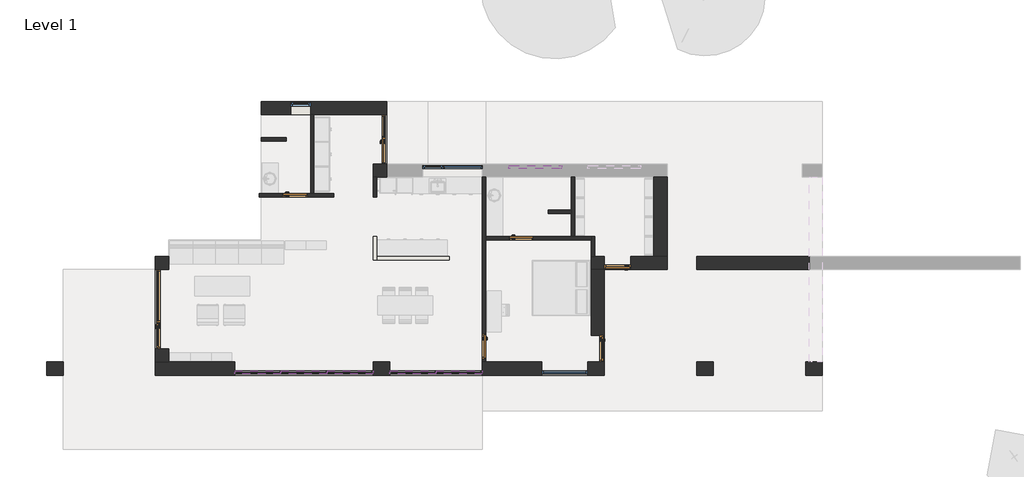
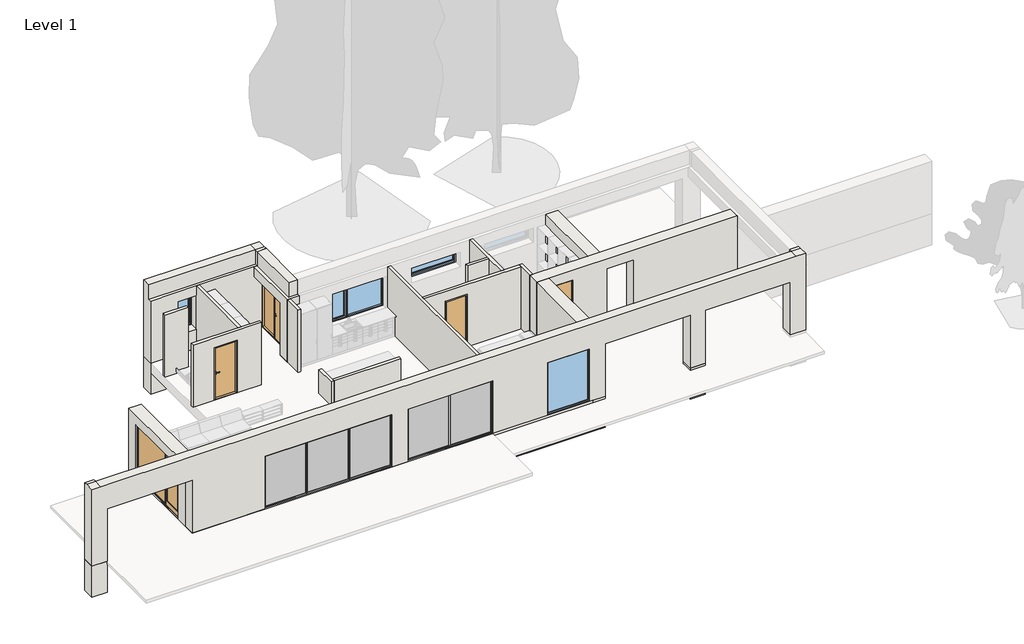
# One storey, part 1 of 2: 27 walls, 17 members, 7 doors, 5 plates, 4 windows.
"""IFC4 building model written with IfcOpenShell, lengths in millimetres."""

from ifc_helpers import new_model, si_unit, frame, origin, origin_with_axes, place, context, project, spatial, polyline, outline, extrude, faceted_brep, transform, mapped, element, save
from components import door_1800x2200_mm_7a9b0269, ext_door_window_assembly_glass_2880x2200_mm_8e24472b, ext_single_flush_out_glass_960x2200_mm_6190eac3, ext_single_flush1_960x2200_mm_7c25dc53, int_single_flush1_900x2200_mm_083ae047, rectangular_mullion_exterior_50x115mm_b31c03e9, rectangular_mullion_exterior_50x115mm_eaa21abb, rectangular_mullion_exterior_50x115mm_593a1a29, system_panel_exterior_glass_22mm_baca3ab9, system_panel_exterior_glass_22mm_266c4f93, fixed_1680x2200_mm_e3bfc0e5, single_light_top_hinged_1920x600_dd11e4f9, single_light_720x1400_mm_50d61ae6, window_assembly_individual_2160x1400_mm_9c06a6f2

model = new_model("IFC4")

# Units and contexts
model_context = context("Model", 3, world=origin())
ifc_project = project(units=[si_unit("LENGTHUNIT", "METRE", prefix="MILLI")], contexts=[model_context])

# Site, building, storey
site = spatial("IfcSite", under=ifc_project)
building = spatial("IfcBuilding", under=site)
storey = spatial("IfcBuildingStorey", under=building, Name="Level 1", Elevation=0.0)

# Doors
placement = place(None, origin())
door_1800x2200_mm_shape = door_1800x2200_mm_7a9b0269(model_context)
element("IfcDoor", 1, ObjectType="Ext. Door inw. Window Assembly : 1800x2200 mm", at=placement, inside=storey, context=model_context, shape_type="MappedRepresentation", body=[
    mapped(door_1800x2200_mm_shape, transform((12120.0, 8580.0, 0.0), x_axis=(0.0, -1.0, 0.0), y_axis=(1.0, 0.0, 0.0), z_axis=(0.0, 0.0, 1.0))),
])
ext_door_window_assembly_glass_2880x2200_mm_shape = ext_door_window_assembly_glass_2880x2200_mm_8e24472b(model_context)
element("IfcDoor", 2, ObjectType="Ext. Door Window Assembly - Glass : 2880x2200 mm", at=placement, inside=storey, context=model_context, shape_type="MappedRepresentation", body=[
    mapped(ext_door_window_assembly_glass_2880x2200_mm_shape, transform((4200.0, 2400.0, 0.0), x_axis=(0.0, -1.0, 0.0), y_axis=(1.0, 0.0, 0.0), z_axis=(0.0, 0.0, 1.0))),
])
ext_single_flush_out_glass_960x2200_mm_shape = ext_single_flush_out_glass_960x2200_mm_6190eac3(model_context)
element("IfcDoor", 3, ObjectType="Ext. Single-Flush out - Glass : 960x2200 mm", at=placement, inside=storey, context=model_context, shape_type="MappedRepresentation", body=[
    mapped(ext_single_flush_out_glass_960x2200_mm_shape, transform((20040.0, 960.0, 0.0), x_axis=(0.0, -1.0, 0.0), y_axis=(1.0, 0.0, 0.0), z_axis=(0.0, 0.0, 1.0))),
])
ext_single_flush1_960x2200_mm_shape = ext_single_flush1_960x2200_mm_7c25dc53(model_context)
element("IfcDoor", 4, ObjectType="Ext. Single-Flush1 : 960x2200 mm", at=placement, inside=storey, context=model_context, shape_type="MappedRepresentation", body=[
    mapped(ext_single_flush1_960x2200_mm_shape, transform((20760.0, 4080.0, 0.0), x_axis=(-1.0, 0.0, 0.0), y_axis=(0.0, -1.0, 0.0), z_axis=(0.0, 0.0, 1.0))),
])
int_single_flush1_900x2200_mm_shape = int_single_flush1_900x2200_mm_083ae047(model_context)
element("IfcDoor", 5, ObjectType="Int. Single-Flush1 : 900x2200 mm", at=placement, inside=storey, context=model_context, shape_type="MappedRepresentation", body=[
    mapped(int_single_flush1_900x2200_mm_shape, transform((9030.0, 6540.0, 0.0), x_axis=(1.0, 0.0, 0.0), y_axis=(0.0, 1.0, 0.0), z_axis=(0.0, 0.0, 1.0))),
])
element("IfcDoor", 6, ObjectType="Int. Single-Flush1 : 900x2200 mm", at=placement, inside=storey, context=model_context, shape_type="MappedRepresentation", body=[
    mapped(int_single_flush1_900x2200_mm_shape, transform((17250.0, 4980.0, 0.0), x_axis=(1.0, 0.0, 0.0), y_axis=(0.0, 1.0, 0.0), z_axis=(0.0, 0.0, 1.0))),
])
element("IfcDoor", 7, ObjectType="Int. Single-Flush1 : 900x2200 mm", at=placement, inside=storey, context=model_context, shape_type="MappedRepresentation", body=[
    mapped(int_single_flush1_900x2200_mm_shape, transform((15900.0, 1050.0, 0.0), x_axis=(0.0, -1.0, 0.0), y_axis=(1.0, 0.0, 0.0), z_axis=(0.0, 0.0, 1.0))),
])

# Members
rectangular_mullion_exterior_50x115mm_shape = rectangular_mullion_exterior_50x115mm_b31c03e9(model_context)
element("IfcMember", 8, ObjectType="Rectangular Mullion : Exterior - 50x115mm", at=placement, inside=storey, context=model_context, shape_type="MappedRepresentation", body=[
    mapped(rectangular_mullion_exterior_50x115mm_shape, transform((6840.0, 50.0, 2200.0), x_axis=(0.0, 0.0, 1.0), y_axis=(0.0, 1.0, 0.0), z_axis=(-1.0, 0.0, 0.0))),
])
element("IfcMember", 9, ObjectType="Rectangular Mullion : Exterior - 50x115mm", at=placement, inside=storey, context=model_context, shape_type="MappedRepresentation", body=[
    mapped(rectangular_mullion_exterior_50x115mm_shape, transform((12480.0, 50.0, 2200.0), x_axis=(0.0, 0.0, 1.0), y_axis=(0.0, 1.0, 0.0), z_axis=(-1.0, 0.0, 0.0))),
])
element("IfcMember", 10, ObjectType="Rectangular Mullion : Exterior - 50x115mm", at=placement, inside=storey, context=model_context, shape_type="MappedRepresentation", body=[
    mapped(rectangular_mullion_exterior_50x115mm_shape, transform((11880.0, 50.0, 0.0), x_axis=(0.0, 0.0, -1.0), y_axis=(0.0, 1.0, 0.0), z_axis=(1.0, 0.0, 0.0))),
])
element("IfcMember", 11, ObjectType="Rectangular Mullion : Exterior - 50x115mm", at=placement, inside=storey, context=model_context, shape_type="MappedRepresentation", body=[
    mapped(rectangular_mullion_exterior_50x115mm_shape, transform((15840.0, 50.0, 0.0), x_axis=(0.0, 0.0, -1.0), y_axis=(0.0, 1.0, 0.0), z_axis=(1.0, 0.0, 0.0))),
])
rectangular_mullion_exterior_50x115mm_2_shape = rectangular_mullion_exterior_50x115mm_eaa21abb(model_context)
element("IfcMember", 12, ObjectType="Rectangular Mullion : Exterior - 50x115mm", at=placement, inside=storey, context=model_context, shape_type="MappedRepresentation", body=[
    mapped(rectangular_mullion_exterior_50x115mm_2_shape, transform((8520.0, 50.0, 50.0), x_axis=(-1.0, 0.0, 0.0), y_axis=(0.0, 1.0, 0.0), z_axis=(0.0, 0.0, -1.0))),
])
element("IfcMember", 13, ObjectType="Rectangular Mullion : Exterior - 50x115mm", at=placement, inside=storey, context=model_context, shape_type="MappedRepresentation", body=[
    mapped(rectangular_mullion_exterior_50x115mm_2_shape, transform((10200.0, 50.0, 50.0), x_axis=(-1.0, 0.0, 0.0), y_axis=(0.0, 1.0, 0.0), z_axis=(0.0, 0.0, -1.0))),
])
element("IfcMember", 14, ObjectType="Rectangular Mullion : Exterior - 50x115mm", at=placement, inside=storey, context=model_context, shape_type="MappedRepresentation", body=[
    mapped(rectangular_mullion_exterior_50x115mm_2_shape, transform((14160.0, 50.0, 50.0), x_axis=(-1.0, 0.0, 0.0), y_axis=(0.0, 1.0, 0.0), z_axis=(0.0, 0.0, -1.0))),
])
element("IfcMember", 15, ObjectType="Rectangular Mullion : Exterior - 50x115mm", at=placement, inside=storey, context=model_context, shape_type="MappedRepresentation", body=[
    mapped(rectangular_mullion_exterior_50x115mm_shape, transform((8520.0, 50.0, 0.0), x_axis=(0.0, 0.0, -1.0), y_axis=(0.0, 1.0, 0.0), z_axis=(1.0, 0.0, 0.0))),
])
element("IfcMember", 16, ObjectType="Rectangular Mullion : Exterior - 50x115mm", at=placement, inside=storey, context=model_context, shape_type="MappedRepresentation", body=[
    mapped(rectangular_mullion_exterior_50x115mm_shape, transform((14160.0, 50.0, 0.0), x_axis=(0.0, 0.0, -1.0), y_axis=(0.0, 1.0, 0.0), z_axis=(1.0, 0.0, 0.0))),
])
element("IfcMember", 17, ObjectType="Rectangular Mullion : Exterior - 50x115mm", at=placement, inside=storey, context=model_context, shape_type="MappedRepresentation", body=[
    mapped(rectangular_mullion_exterior_50x115mm_shape, transform((10200.0, 50.0, 0.0), x_axis=(0.0, 0.0, -1.0), y_axis=(0.0, 1.0, 0.0), z_axis=(1.0, 0.0, 0.0))),
])
element("IfcMember", 18, ObjectType="Rectangular Mullion : Exterior - 50x115mm", at=placement, inside=storey, context=model_context, shape_type="MappedRepresentation", body=[
    mapped(rectangular_mullion_exterior_50x115mm_shape, transform((8520.0, 50.0, 2200.0), x_axis=(0.0, 0.0, 1.0), y_axis=(0.0, 1.0, 0.0), z_axis=(-1.0, 0.0, 0.0))),
])
element("IfcMember", 19, ObjectType="Rectangular Mullion : Exterior - 50x115mm", at=placement, inside=storey, context=model_context, shape_type="MappedRepresentation", body=[
    mapped(rectangular_mullion_exterior_50x115mm_shape, transform((10200.0, 50.0, 2200.0), x_axis=(0.0, 0.0, 1.0), y_axis=(0.0, 1.0, 0.0), z_axis=(-1.0, 0.0, 0.0))),
])
element("IfcMember", 20, ObjectType="Rectangular Mullion : Exterior - 50x115mm", at=placement, inside=storey, context=model_context, shape_type="MappedRepresentation", body=[
    mapped(rectangular_mullion_exterior_50x115mm_shape, transform((14160.0, 50.0, 2200.0), x_axis=(0.0, 0.0, 1.0), y_axis=(0.0, 1.0, 0.0), z_axis=(-1.0, 0.0, 0.0))),
])
rectangular_mullion_exterior_50x115mm_3_shape = rectangular_mullion_exterior_50x115mm_593a1a29(model_context)
element("IfcMember", 21, ObjectType="Rectangular Mullion : Exterior - 50x115mm", at=placement, inside=storey, context=model_context, shape_type="MappedRepresentation", body=[
    mapped(rectangular_mullion_exterior_50x115mm_3_shape, transform((11880.0, 50.0, 2150.0), x_axis=(1.0, 0.0, 0.0), y_axis=(0.0, 1.0, 0.0), z_axis=(0.0, 0.0, 1.0))),
])
element("IfcMember", 22, ObjectType="Rectangular Mullion : Exterior - 50x115mm", at=placement, inside=storey, context=model_context, shape_type="MappedRepresentation", body=[
    mapped(rectangular_mullion_exterior_50x115mm_3_shape, transform((15840.0, 50.0, 2150.0), x_axis=(1.0, 0.0, 0.0), y_axis=(0.0, 1.0, 0.0), z_axis=(0.0, 0.0, 1.0))),
])
element("IfcMember", 23, ObjectType="Rectangular Mullion : Exterior - 50x115mm", at=placement, inside=storey, context=model_context, shape_type="MappedRepresentation", body=[
    mapped(rectangular_mullion_exterior_50x115mm_3_shape, transform((6840.0, 50.0, 50.0), x_axis=(-1.0, 0.0, 0.0), y_axis=(0.0, 1.0, 0.0), z_axis=(0.0, 0.0, -1.0))),
])
element("IfcMember", 24, ObjectType="Rectangular Mullion : Exterior - 50x115mm", at=placement, inside=storey, context=model_context, shape_type="MappedRepresentation", body=[
    mapped(rectangular_mullion_exterior_50x115mm_3_shape, transform((12480.0, 50.0, 50.0), x_axis=(-1.0, 0.0, 0.0), y_axis=(0.0, 1.0, 0.0), z_axis=(0.0, 0.0, -1.0))),
])

# Plates
system_panel_exterior_glass_22mm_shape = system_panel_exterior_glass_22mm_baca3ab9(model_context)
element("IfcPlate", 25, ObjectType="System Panel : Exterior - Glass 22mm", at=placement, inside=storey, context=model_context, shape_type="MappedRepresentation", body=[
    mapped(system_panel_exterior_glass_22mm_shape, transform((11027.5, 50.0, 50.0), x_axis=(-1.0, 0.0, 0.0), y_axis=(0.0, -1.0, 0.0), z_axis=(0.0, 0.0, 1.0))),
])
element("IfcPlate", 26, ObjectType="System Panel : Exterior - Glass 22mm", at=placement, inside=storey, context=model_context, shape_type="MappedRepresentation", body=[
    mapped(system_panel_exterior_glass_22mm_shape, transform((7692.5, 50.0, 50.0), x_axis=(-1.0, 0.0, 0.0), y_axis=(0.0, -1.0, 0.0), z_axis=(0.0, 0.0, 1.0))),
])
element("IfcPlate", 27, ObjectType="System Panel : Exterior - Glass 22mm", at=placement, inside=storey, context=model_context, shape_type="MappedRepresentation", body=[
    mapped(system_panel_exterior_glass_22mm_shape, transform((14987.5, 50.0, 50.0), x_axis=(-1.0, 0.0, 0.0), y_axis=(0.0, -1.0, 0.0), z_axis=(0.0, 0.0, 1.0))),
])
element("IfcPlate", 28, ObjectType="System Panel : Exterior - Glass 22mm", at=placement, inside=storey, context=model_context, shape_type="MappedRepresentation", body=[
    mapped(system_panel_exterior_glass_22mm_shape, transform((13332.5, 50.0, 50.0), x_axis=(-1.0, 0.0, 0.0), y_axis=(0.0, -1.0, 0.0), z_axis=(0.0, 0.0, 1.0))),
])
system_panel_exterior_glass_22mm_2_shape = system_panel_exterior_glass_22mm_266c4f93(model_context)
element("IfcPlate", 29, ObjectType="System Panel : Exterior - Glass 22mm", at=placement, inside=storey, context=model_context, shape_type="MappedRepresentation", body=[
    mapped(system_panel_exterior_glass_22mm_2_shape, transform((9360.0, 50.0, 50.0), x_axis=(-1.0, 0.0, 0.0), y_axis=(0.0, -1.0, 0.0), z_axis=(0.0, 0.0, 1.0))),
])

# Walls
element("IfcWall", 30, ObjectType="Generic - 120mm (Interior)", at=placement, inside=storey, context=model_context, shape_type="Brep", body=[
    faceted_brep([(9720.0, 6600.0, 0.0), (9720.0, 9480.0, 0.0), (9720.0, 9480.0, 2600.0), (9720.0, 6600.0, 2600.0), (9600.0, 6600.0, 0.0), (9600.0, 6600.0, 2600.0), (9600.0, 9480.0, 2600.0), (9600.0, 9480.0, 2200.0), (9600.0, 9480.0, 800.0), (9600.0, 9480.0, 0.0)], [[[0, 1, 2, 3]], [[4, 5, 6, 7, 8, 9]], [[1, 0, 4, 9]], [[0, 3, 5, 4]], [[2, 1, 9, 8, 7, 6]], [[3, 2, 6, 5]]]),
])
element("IfcWall", 31, ObjectType="Generic - 120mm (Interior)", at=placement, inside=storey, context=model_context, shape_type="Brep", body=[
    faceted_brep([(15960.0, 7200.0, 0.0), (15960.0, 7200.0, 2600.0), (15960.0, 5040.0, 2600.0), (15960.0, 4920.0, 2600.0), (15960.0, 480.0, 2600.0), (15960.0, 480.0, 0.0), (15960.0, 600.0, 0.0), (15960.0, 600.0, 2200.0), (15960.0, 1500.0, 2200.0), (15960.0, 1500.0, 0.0), (15960.0, 4920.0, 0.0), (15960.0, 5040.0, 0.0), (15840.0, 7200.0, 2600.0), (15840.0, 7200.0, 2200.0), (15840.0, 7200.0, 800.0), (15840.0, 7200.0, 0.0), (15840.0, 1500.0, 0.0), (15840.0, 1500.0, 2200.0), (15840.0, 600.0, 2200.0), (15840.0, 600.0, 0.0), (15840.0, 480.0, 0.0), (15840.0, 480.0, 2200.0), (15840.0, 480.0, 2600.0)], [[[0, 1, 2, 3, 4, 5, 6, 7, 8, 9, 10, 11]], [[12, 13, 14, 15, 16, 17, 18, 19, 20, 21, 22]], [[5, 20, 19, 6]], [[15, 0, 11, 10, 9, 16]], [[1, 0, 15, 14, 13, 12]], [[5, 4, 22, 21, 20]], [[18, 7, 6, 19]], [[7, 18, 17, 8]], [[8, 17, 16, 9]], [[4, 3, 2, 1, 12, 22]]]),
])
element("IfcWall", 32, ObjectType="Generic - 120mm (Interior)", at=placement, inside=storey, context=model_context, shape_type="Brep", body=[
    faceted_brep([(19920.0, 4320.0, 0.0), (19920.0, 5040.0, 0.0), (19920.0, 5040.0, 2600.0), (19920.0, 4320.0, 2600.0), (19800.0, 4320.0, 0.0), (19800.0, 4320.0, 2600.0), (19800.0, 4920.0, 2600.0), (19800.0, 5040.0, 2600.0), (19800.0, 5040.0, 0.0), (19800.0, 4920.0, 0.0)], [[[0, 1, 2, 3]], [[4, 5, 6, 7, 8, 9]], [[1, 0, 4, 9, 8]], [[2, 1, 8, 7]], [[0, 3, 5, 4]], [[3, 2, 7, 6, 5]]]),
])
element("IfcWall", 33, ObjectType="Generic - 120mm (Interior)", at=placement, inside=storey, context=model_context, shape_type="Brep", body=[
    faceted_brep([(19800.0, 5040.0, 2600.0), (19800.0, 5040.0, 0.0), (19200.0, 5040.0, 0.0), (19080.0, 5040.0, 0.0), (17700.0, 5040.0, 0.0), (17700.0, 5040.0, 2200.0), (16800.0, 5040.0, 2200.0), (16800.0, 5040.0, 0.0), (15960.0, 5040.0, 0.0), (15960.0, 5040.0, 2600.0), (19080.0, 5040.0, 2600.0), (19200.0, 5040.0, 2600.0), (19800.0, 4920.0, 0.0), (19800.0, 4920.0, 2600.0), (15960.0, 4920.0, 2600.0), (15960.0, 4920.0, 0.0), (16800.0, 4920.0, 0.0), (16800.0, 4920.0, 2200.0), (17700.0, 4920.0, 2200.0), (17700.0, 4920.0, 0.0)], [[[0, 1, 2, 3, 4, 5, 6, 7, 8, 9, 10, 11]], [[12, 13, 14, 15, 16, 17, 18, 19]], [[1, 12, 19, 4, 3, 2]], [[15, 8, 7, 16]], [[1, 0, 13, 12]], [[9, 8, 15, 14]], [[18, 5, 4, 19]], [[5, 18, 17, 6]], [[6, 17, 16, 7]], [[0, 11, 10, 9, 14, 13]]]),
])
element("IfcWall", 34, ObjectType="Generic - 120mm (Interior)", at=placement, inside=storey, context=model_context, shape_type="Brep", body=[
    faceted_brep([(19200.0, 5040.0, 0.0), (19200.0, 7200.0, 0.0), (19200.0, 7200.0, 2600.0), (19200.0, 5040.0, 2600.0), (19080.0, 5040.0, 0.0), (19080.0, 5040.0, 2600.0), (19080.0, 5880.0, 2600.0), (19080.0, 6000.0, 2600.0), (19080.0, 7200.0, 2600.0), (19080.0, 7200.0, 0.0), (19080.0, 6000.0, 0.0), (19080.0, 5880.0, 0.0)], [[[0, 1, 2, 3]], [[4, 5, 6, 7, 8, 9, 10, 11]], [[1, 0, 4, 11, 10, 9]], [[0, 3, 5, 4]], [[2, 1, 9, 8]], [[3, 2, 8, 7, 6, 5]]]),
])
element("IfcWall", 35, ObjectType="Generic - 120mm (Interior)", at=placement, inside=storey, context=model_context, shape_type="SweptSolid", body=[
    extrude(outline(polyline([(18240.0, 6000.0), (19080.0, 6000.0), (19080.0, 5880.0), (18240.0, 5880.0), (18240.0, 6000.0)])), origin_with_axes(), (0.0, 0.0, 1.0), 2600.0),
])
element("IfcWall", 36, ObjectType="Generic - 120mm (Interior)", at=placement, inside=storey, context=model_context, shape_type="SweptSolid", body=[
    extrude(outline(polyline([(8720.0, 8520.0), (7800.0, 8520.0), (7800.0, 8640.0), (8720.0, 8640.0), (8720.0, 8520.0)])), origin_with_axes(), (0.0, 0.0, 1.0), 2600.0),
])
element("IfcWall", 37, ObjectType="Generic - 120mm (Interior)", at=placement, inside=storey, context=model_context, shape_type="Brep", body=[
    faceted_brep([(11880.0, 5040.0, 0.0), (11880.0, 4200.0, 0.0), (11880.0, 4200.0, 1000.0), (11880.0, 5040.0, 1000.0), (12000.0, 5040.0, 0.0), (12000.0, 5040.0, 1000.0), (12000.0, 4320.0, 1000.0), (12000.0, 4200.0, 1000.0), (12000.0, 4200.0, 0.0), (12000.0, 4320.0, 0.0)], [[[0, 1, 2, 3]], [[4, 5, 6, 7, 8, 9]], [[1, 0, 4, 9, 8]], [[3, 2, 7, 6, 5]], [[0, 3, 5, 4]], [[2, 1, 8, 7]]]),
])
element("IfcWall", 38, ObjectType="Generic - 120mm (Interior)", at=placement, inside=storey, context=model_context, shape_type="SweptSolid", body=[
    extrude(outline(polyline([(14640.0, 4200.0), (12000.0, 4200.0), (12000.0, 4320.0), (14640.0, 4320.0), (14640.0, 4200.0)])), origin_with_axes(), (0.0, 0.0, 1.0), 1000.0),
])
element("IfcWall", 39, ObjectType="Generic - 120mm (Interior)", at=placement, inside=storey, context=model_context, shape_type="SweptSolid", body=[
    extrude(outline(polyline([(11880.0, 6480.0), (11880.0, 7200.0), (12000.0, 7200.0), (12000.0, 6480.0), (11880.0, 6480.0)])), origin_with_axes(), (0.0, 0.0, 1.0), 2600.0),
])
element("IfcWall", 40, ObjectType="Generic - 120mm (Interior)", at=placement, inside=storey, context=model_context, shape_type="Brep", body=[
    faceted_brep([(10440.0, 6480.0, 0.0), (10440.0, 6480.0, 2600.0), (7740.0, 6480.0, 2600.0), (7740.0, 6480.0, 0.0), (7800.0, 6480.0, 0.0), (8580.0, 6480.0, 0.0), (8580.0, 6480.0, 2200.0), (9480.0, 6480.0, 2200.0), (9480.0, 6480.0, 0.0), (10440.0, 6600.0, 2600.0), (10440.0, 6600.0, 0.0), (9720.0, 6600.0, 0.0), (9600.0, 6600.0, 0.0), (9480.0, 6600.0, 0.0), (9480.0, 6600.0, 2200.0), (8580.0, 6600.0, 2200.0), (8580.0, 6600.0, 0.0), (7800.0, 6600.0, 0.0), (7740.0, 6600.0, 0.0), (7740.0, 6600.0, 2600.0), (7800.0, 6600.0, 2600.0), (9600.0, 6600.0, 2600.0), (9720.0, 6600.0, 2600.0)], [[[0, 1, 2, 3, 4, 5, 6, 7, 8]], [[9, 10, 11, 12, 13, 14, 15, 16, 17, 18, 19, 20, 21, 22]], [[10, 0, 8, 13, 12, 11]], [[3, 18, 17, 16, 5, 4]], [[1, 0, 10, 9]], [[3, 2, 19, 18]], [[2, 1, 9, 22, 21, 20, 19]], [[7, 14, 13, 8]], [[14, 7, 6, 15]], [[15, 6, 5, 16]]]),
])
element("IfcWall", 41, ObjectType="Generic - 480mm (Exterior)", at=placement, inside=storey, context=model_context, shape_type="Brep", body=[
    faceted_brep([(11880.0, 7200.0, 0.0), (11880.0, 7200.0, 2600.0), (11880.0, 9480.0, 2600.0), (11880.0, 9480.0, 2200.0), (11880.0, 7680.0, 2200.0), (11880.0, 7680.0, 0.0), (12360.0, 7200.0, 2600.0), (12360.0, 7200.0, 0.0), (12360.0, 7680.0, 0.0), (12360.0, 7680.0, 2200.0), (12360.0, 9480.0, 2200.0), (12360.0, 9480.0, 3200.0), (12360.0, 7680.0, 3200.0), (12360.0, 7320.0, 3200.0), (12360.0, 7320.0, 2600.0), (12000.0, 9480.0, 3200.0), (12000.0, 9480.0, 2600.0), (12000.0, 7200.0, 2600.0), (12000.0, 7320.0, 2600.0), (12000.0, 7320.0, 3200.0)], [[[0, 1, 2, 3, 4, 5]], [[6, 7, 8, 9, 10, 11, 12, 13, 14]], [[7, 0, 5, 8]], [[15, 11, 10, 3, 2, 16]], [[4, 9, 8, 5]], [[9, 4, 3, 10]], [[1, 0, 7, 6, 17]], [[15, 16, 18, 19]], [[11, 15, 19, 13, 12]], [[13, 19, 18, 14]], [[16, 2, 1, 17, 6, 14, 18]]]),
])
element("IfcWall", 42, ObjectType="Generic - 480mm (Exterior)", at=placement, inside=storey, context=model_context, shape_type="Brep", body=[
    faceted_brep([(28200.0, 480.0, 0.0), (27600.0, 480.0, 0.0), (27600.0, 480.0, 2200.0), (24240.0, 480.0, 2200.0), (24240.0, 480.0, 0.0), (23640.0, 480.0, 0.0), (23640.0, 480.0, 2200.0), (20280.0, 480.0, 2200.0), (20280.0, 480.0, 0.0), (19680.0, 480.0, 0.0), (19680.0, 480.0, 2200.0), (18000.0, 480.0, 2200.0), (18000.0, 480.0, 0.0), (15960.0, 480.0, 0.0), (15840.0, 480.0, 0.0), (15840.0, 480.0, 2200.0), (12480.0, 480.0, 2200.0), (12480.0, 480.0, 0.0), (11880.0, 480.0, 0.0), (11880.0, 480.0, 2200.0), (6840.0, 480.0, 2200.0), (6840.0, 480.0, 0.0), (4440.0, 480.0, 0.0), (3960.0, 480.0, 0.0), (3960.0, 480.0, 2200.0), (600.0, 480.0, 2200.0), (600.0, 480.0, 0.0), (0.0, 480.0, 0.0), (0.0, 480.0, 2200.0), (0.0, 480.0, 3200.0), (360.0, 480.0, 3200.0), (360.0, 480.0, 2600.0), (480.0, 480.0, 2600.0), (3960.0, 480.0, 2600.0), (4440.0, 480.0, 2600.0), (15840.0, 480.0, 2600.0), (15960.0, 480.0, 2600.0), (19800.0, 480.0, 2600.0), (20280.0, 480.0, 2600.0), (27720.0, 480.0, 2600.0), (27840.0, 480.0, 2600.0), (27840.0, 480.0, 3200.0), (28200.0, 480.0, 3200.0), (28200.0, 480.0, 2200.0), (27600.0, 0.0, 0.0), (28200.0, 0.0, 0.0), (28200.0, 0.0, 3200.0), (27840.0, 0.0, 3200.0), (360.0, 0.0, 3200.0), (0.0, 0.0, 3200.0), (0.0, 0.0, 0.0), (600.0, 0.0, 0.0), (600.0, 0.0, 2200.0), (3960.0, 0.0, 2200.0), (3960.0, 0.0, 0.0), (6840.0, 0.0, 0.0), (6840.0, 0.0, 2200.0), (11880.0, 0.0, 2200.0), (11880.0, 0.0, 0.0), (12480.0, 0.0, 0.0), (12480.0, 0.0, 2200.0), (15840.0, 0.0, 2200.0), (15840.0, 0.0, 0.0), (18000.0, 0.0, 0.0), (18000.0, 0.0, 2200.0), (19680.0, 0.0, 2200.0), (19680.0, 0.0, 0.0), (20280.0, 0.0, 0.0), (20280.0, 0.0, 2200.0), (23640.0, 0.0, 2200.0), (23640.0, 0.0, 0.0), (24240.0, 0.0, 0.0), (24240.0, 0.0, 2200.0), (27600.0, 0.0, 2200.0), (28200.0, 360.0, 3200.0), (0.0, 360.0, 3200.0), (27840.0, 360.0, 2600.0), (27840.0, 360.0, 3200.0), (360.0, 360.0, 2600.0), (360.0, 360.0, 3200.0)], [[[0, 1, 2, 3, 4, 5, 6, 7, 8, 9, 10, 11, 12, 13, 14, 15, 16, 17, 18, 19, 20, 21, 22, 23, 24, 25, 26, 27, 28, 29, 30, 31, 32, 33, 34, 35, 36, 37, 38, 39, 40, 41, 42, 43]], [[44, 45, 46, 47, 48, 49, 50, 51, 52, 53, 54, 55, 56, 57, 58, 59, 60, 61, 62, 63, 64, 65, 66, 67, 68, 69, 70, 71, 72, 73]], [[65, 10, 9, 66]], [[10, 65, 64, 11]], [[11, 64, 63, 12]], [[57, 19, 18, 58]], [[19, 57, 56, 20]], [[20, 56, 55, 21]], [[61, 15, 14, 62]], [[15, 61, 60, 16]], [[16, 60, 59, 17]], [[1, 0, 45, 44]], [[2, 1, 44, 73]], [[3, 2, 73, 72]], [[4, 3, 72, 71]], [[5, 4, 71, 70]], [[6, 5, 70, 69]], [[7, 6, 69, 68]], [[9, 8, 67, 66]], [[12, 63, 62, 14, 13]], [[58, 18, 17, 59]], [[23, 22, 21, 55, 54]], [[25, 24, 53, 52]], [[26, 25, 52, 51]], [[27, 26, 51, 50]], [[24, 23, 54, 53]], [[8, 7, 68, 67]], [[0, 43, 42, 74, 46, 45]], [[29, 28, 27, 50, 49, 75]], [[41, 40, 76, 77]], [[77, 76, 78, 79]], [[42, 41, 77, 74]], [[47, 46, 74, 77]], [[29, 75, 79, 30]], [[30, 79, 78, 31]], [[77, 79, 48, 47]], [[75, 49, 48, 79]], [[76, 40, 39, 38, 37, 36, 35, 34, 33, 32, 31, 78]]]),
])
element("IfcWall", 43, ObjectType="Generic - 480mm (Exterior)", at=placement, inside=storey, context=model_context, shape_type="Brep", body=[
    faceted_brep([(4440.0, 4320.0, 0.0), (4440.0, 4320.0, 2600.0), (4440.0, 480.0, 2600.0), (4440.0, 480.0, 0.0), (4440.0, 960.0, 0.0), (4440.0, 960.0, 2200.0), (4440.0, 3840.0, 2200.0), (4440.0, 3840.0, 0.0), (3960.0, 4320.0, 2600.0), (3960.0, 4320.0, 0.0), (3960.0, 3840.0, 0.0), (3960.0, 3840.0, 2200.0), (3960.0, 960.0, 2200.0), (3960.0, 960.0, 0.0), (3960.0, 480.0, 0.0), (3960.0, 480.0, 2200.0), (3960.0, 480.0, 2600.0), (3960.0, 3840.0, 2600.0), (4320.0, 4320.0, 2600.0)], [[[0, 1, 2, 3, 4, 5, 6, 7]], [[8, 9, 10, 11, 12, 13, 14, 15, 16, 17]], [[9, 0, 7, 10]], [[3, 14, 13, 4]], [[1, 0, 9, 8, 18]], [[12, 5, 4, 13]], [[5, 12, 11, 6]], [[6, 11, 10, 7]], [[14, 3, 2, 16, 15]], [[16, 2, 1, 18, 8, 17]]]),
])
element("IfcWall", 44, ObjectType="Generic - 480mm (Exterior)", at=placement, inside=storey, context=model_context, shape_type="Brep", body=[
    faceted_brep([(22080.0, 7200.0, 2600.0), (22080.0, 7200.0, 0.0), (22080.0, 4320.0, 0.0), (22080.0, 4320.0, 2600.0), (22560.0, 7200.0, 0.0), (22560.0, 7200.0, 2200.0), (22560.0, 7200.0, 2600.0), (22560.0, 4320.0, 2600.0), (22560.0, 4320.0, 2200.0), (22560.0, 4320.0, 0.0)], [[[0, 1, 2, 3]], [[4, 5, 6, 7, 8, 9]], [[2, 1, 4, 9]], [[0, 6, 5, 4, 1]], [[0, 3, 7, 6]], [[3, 2, 9, 8, 7]]]),
])
element("IfcWall", 45, ObjectType="Generic - 480mm (Exterior)", at=placement, inside=storey, context=model_context, shape_type="Brep", body=[
    faceted_brep([(19800.0, 3840.0, 2600.0), (19800.0, 3840.0, 0.0), (19800.0, 1440.0, 0.0), (19800.0, 1440.0, 2200.0), (19800.0, 480.0, 2200.0), (19800.0, 480.0, 2600.0), (20280.0, 3840.0, 0.0), (20280.0, 3840.0, 2200.0), (20280.0, 3840.0, 2600.0), (20280.0, 480.0, 2600.0), (20280.0, 480.0, 2200.0), (20280.0, 1440.0, 2200.0), (20280.0, 1440.0, 0.0)], [[[0, 1, 2, 3, 4, 5]], [[6, 7, 8, 9, 10, 11, 12]], [[1, 6, 12, 2]], [[1, 0, 8, 7, 6]], [[3, 11, 10, 4]], [[11, 3, 2, 12]], [[9, 5, 4, 10]], [[0, 5, 9, 8]]]),
])
element("IfcWall", 46, ObjectType="Generic - 480mm (Exterior)", at=placement, inside=storey, context=model_context, shape_type="Brep", body=[
    faceted_brep([(19800.0, 4320.0, 0.0), (19800.0, 4320.0, 2600.0), (19920.0, 4320.0, 2600.0), (22080.0, 4320.0, 2600.0), (22560.0, 4320.0, 2600.0), (27720.0, 4320.0, 2600.0), (27720.0, 4320.0, 2200.0), (27720.0, 4320.0, 0.0), (23640.0, 4320.0, 0.0), (23640.0, 4320.0, 2200.0), (22560.0, 4320.0, 2200.0), (22560.0, 4320.0, 0.0), (22080.0, 4320.0, 0.0), (21240.0, 4320.0, 0.0), (21240.0, 4320.0, 2200.0), (20280.0, 4320.0, 2200.0), (20280.0, 4320.0, 0.0), (19920.0, 4320.0, 0.0), (19800.0, 3840.0, 2600.0), (19800.0, 3840.0, 0.0), (20280.0, 3840.0, 0.0), (20280.0, 3840.0, 2200.0), (21240.0, 3840.0, 2200.0), (21240.0, 3840.0, 0.0), (22560.0, 3840.0, 0.0), (22560.0, 3840.0, 2200.0), (23640.0, 3840.0, 2200.0), (23640.0, 3840.0, 0.0), (27720.0, 3840.0, 0.0), (27720.0, 3840.0, 2200.0), (27720.0, 3840.0, 2600.0), (20280.0, 3840.0, 2600.0)], [[[0, 1, 2, 3, 4, 5, 6, 7, 8, 9, 10, 11, 12, 13, 14, 15, 16, 17]], [[18, 19, 20, 21, 22, 23, 24, 25, 26, 27, 28, 29, 30, 31]], [[19, 0, 17, 16, 20]], [[7, 28, 27, 8]], [[11, 24, 23, 13, 12]], [[1, 0, 19, 18]], [[15, 21, 20, 16]], [[21, 15, 14, 22]], [[22, 14, 13, 23]], [[28, 7, 6, 5, 30, 29]], [[9, 26, 25, 10]], [[26, 9, 8, 27]], [[5, 4, 3, 2, 1, 18, 31, 30]], [[10, 25, 24, 11]]]),
])
element("IfcWall", 47, ObjectType="Generic - 480mm (Exterior)", at=placement, inside=storey, context=model_context, shape_type="Brep", body=[
    faceted_brep([(7800.0, 9480.0, 0.0), (9600.0, 9480.0, 0.0), (9720.0, 9480.0, 0.0), (12360.0, 9480.0, 0.0), (12360.0, 9480.0, 2200.0), (12360.0, 9480.0, 3200.0), (12000.0, 9480.0, 3200.0), (12000.0, 9480.0, 2600.0), (11880.0, 9480.0, 2600.0), (9720.0, 9480.0, 2600.0), (9600.0, 9480.0, 2600.0), (7800.0, 9480.0, 2600.0), (8880.0, 9480.0, 800.0), (8880.0, 9480.0, 2200.0), (9600.0, 9480.0, 2200.0), (9600.0, 9480.0, 800.0), (7800.0, 9960.0, 0.0), (7800.0, 9960.0, 3200.0), (12000.0, 9960.0, 3200.0), (12360.0, 9960.0, 3200.0), (12360.0, 9960.0, 0.0), (8880.0, 9960.0, 800.0), (9600.0, 9960.0, 800.0), (9600.0, 9960.0, 2200.0), (8880.0, 9960.0, 2200.0), (7800.0, 9600.0, 2600.0), (7800.0, 9600.0, 3200.0), (12360.0, 9600.0, 3200.0), (12000.0, 9600.0, 3200.0), (12000.0, 9600.0, 2600.0)], [[[0, 1, 2, 3, 4, 5, 6, 7, 8, 9, 10, 11], [12, 13, 14, 15]], [[16, 17, 18, 19, 20], [21, 22, 23, 24]], [[3, 2, 1, 0, 16, 20]], [[0, 11, 25, 26, 17, 16]], [[5, 4, 3, 20, 19, 27]], [[28, 26, 25, 29]], [[6, 5, 27, 28]], [[6, 28, 29, 7]], [[18, 17, 26, 28]], [[27, 19, 18, 28]], [[11, 10, 9, 8, 7, 29, 25]], [[12, 15, 22, 21]], [[15, 14, 23, 22]], [[14, 13, 24, 23]], [[13, 12, 21, 24]]]),
])
element("IfcWall", 48, ObjectType="Generic - 480mm (Foundation)", at=placement, inside=storey, context=model_context, shape_type="Brep", body=[
    faceted_brep([(7800.0, 9480.0, 0.0), (7800.0, 9480.0, -600.0), (7800.0, 9480.0, -1300.0), (11880.0, 9480.0, -1300.0), (12360.0, 9480.0, -1300.0), (12360.0, 9480.0, 0.0), (11880.0, 9480.0, 0.0), (7800.0, 9960.0, -1300.0), (7800.0, 9960.0, -600.0), (7800.0, 9960.0, 0.0), (12360.0, 9960.0, 0.0), (12360.0, 9960.0, -1300.0)], [[[0, 1, 2, 3, 4, 5, 6]], [[7, 8, 9, 10, 11]], [[4, 3, 2, 7, 11]], [[0, 6, 5, 10, 9]], [[5, 4, 11, 10]], [[0, 9, 8, 7, 2, 1]]]),
])
element("IfcWall", 49, ObjectType="Generic - 480mm (Foundation)", at=placement, inside=storey, context=model_context, shape_type="Brep", body=[
    faceted_brep([(11880.0, 9480.0, -1300.0), (11880.0, 7200.0, -1300.0), (11880.0, 7200.0, -400.0), (11880.0, 7200.0, 0.0), (11880.0, 7680.0, 0.0), (11880.0, 7680.0, -400.0), (11880.0, 9480.0, -400.0), (12360.0, 7200.0, -1300.0), (12360.0, 7680.0, -1300.0), (12360.0, 9480.0, -1300.0), (12360.0, 9480.0, 0.0), (12360.0, 7680.0, 0.0), (12360.0, 7200.0, 0.0), (12360.0, 7200.0, -400.0), (12195.0, 9480.0, 0.0), (12195.0, 7680.0, 0.0), (12195.0, 9480.0, -400.0), (12195.0, 7680.0, -400.0)], [[[0, 1, 2, 3, 4, 5, 6]], [[7, 8, 9, 10, 11, 12, 13]], [[1, 0, 9, 8, 7]], [[12, 11, 10, 14, 15, 4, 3]], [[10, 9, 0, 6, 16, 14]], [[1, 7, 13, 12, 3, 2]], [[17, 16, 6, 5]], [[16, 17, 15, 14]], [[17, 5, 4, 15]]]),
])
element("IfcWall", 50, ObjectType="Generic - 480mm (Foundation)", at=placement, inside=storey, context=model_context, shape_type="Brep", body=[
    faceted_brep([(12360.0, 7200.0, -1300.0), (22080.0, 7200.0, -1300.0), (22560.0, 7200.0, -1300.0), (22560.0, 7200.0, 0.0), (22080.0, 7200.0, 0.0), (12360.0, 7200.0, 0.0), (12360.0, 7680.0, -1300.0), (12360.0, 7680.0, 0.0), (22560.0, 7680.0, 0.0), (22560.0, 7680.0, -1300.0)], [[[0, 1, 2, 3, 4, 5]], [[6, 7, 8, 9]], [[2, 1, 0, 6, 9]], [[5, 4, 3, 8, 7]], [[0, 5, 7, 6]], [[3, 2, 9, 8]]]),
])
element("IfcWall", 51, ObjectType="Generic - 480mm (Foundation)", at=placement, inside=storey, context=model_context, shape_type="Brep", body=[
    faceted_brep([(22080.0, 4320.0, -1300.0), (19800.0, 4320.0, -1300.0), (19800.0, 4320.0, -400.0), (19800.0, 4320.0, 0.0), (20280.0, 4320.0, 0.0), (20280.0, 4320.0, -400.0), (21240.0, 4320.0, -400.0), (21240.0, 4320.0, 0.0), (22080.0, 4320.0, 0.0), (22080.0, 4320.0, -400.0), (19800.0, 3840.0, -1300.0), (20280.0, 3840.0, -1300.0), (22080.0, 3840.0, -1300.0), (22080.0, 3840.0, 0.0), (20280.0, 3840.0, 0.0), (19800.0, 3840.0, 0.0), (19800.0, 3840.0, -400.0), (21240.0, 4005.0, 0.0), (20280.0, 4005.0, 0.0), (21240.0, 4005.0, -400.0), (20280.0, 4005.0, -400.0)], [[[0, 1, 2, 3, 4, 5, 6, 7, 8, 9]], [[10, 11, 12, 13, 14, 15, 16]], [[1, 0, 12, 11, 10]], [[15, 14, 13, 8, 7, 17, 18, 4, 3]], [[8, 13, 12, 0, 9]], [[1, 10, 16, 15, 3, 2]], [[19, 6, 5, 20]], [[6, 19, 17, 7]], [[19, 20, 18, 17]], [[20, 5, 4, 18]]]),
])
element("IfcWall", 52, ObjectType="Generic - 480mm (Foundation)", at=placement, inside=storey, context=model_context, shape_type="Brep", body=[
    faceted_brep([(19800.0, 3840.0, -1300.0), (19800.0, 480.0, -1300.0), (19800.0, 0.0, -1300.0), (19800.0, 0.0, 0.0), (19800.0, 480.0, 0.0), (19800.0, 480.0, -400.0), (19800.0, 1440.0, -400.0), (19800.0, 1440.0, 0.0), (19800.0, 3840.0, 0.0), (19800.0, 3840.0, -400.0), (20280.0, 0.0, -1300.0), (20280.0, 3840.0, -1300.0), (20280.0, 3840.0, 0.0), (20280.0, 0.0, 0.0), (20115.0, 1440.0, 0.0), (20115.0, 480.0, 0.0), (20115.0, 1440.0, -400.0), (20115.0, 480.0, -400.0)], [[[0, 1, 2, 3, 4, 5, 6, 7, 8, 9]], [[10, 11, 12, 13]], [[2, 1, 0, 11, 10]], [[13, 12, 8, 7, 14, 15, 4, 3]], [[8, 12, 11, 0, 9]], [[3, 2, 10, 13]], [[16, 6, 5, 17]], [[6, 16, 14, 7]], [[16, 17, 15, 14]], [[15, 17, 5, 4]]]),
])
element("IfcWall", 53, ObjectType="Generic - 480mm (Foundation)", at=placement, inside=storey, context=model_context, shape_type="Brep", body=[
    faceted_brep([(19800.0, 480.0, -1300.0), (4440.0, 480.0, -1300.0), (3960.0, 480.0, -1300.0), (3960.0, 480.0, 0.0), (4440.0, 480.0, 0.0), (6840.0, 480.0, 0.0), (6840.0, 480.0, -400.0), (11880.0, 480.0, -400.0), (11880.0, 480.0, 0.0), (12480.0, 480.0, 0.0), (12480.0, 480.0, -400.0), (15840.0, 480.0, -400.0), (15840.0, 480.0, 0.0), (18000.0, 480.0, 0.0), (18000.0, 480.0, -400.0), (19680.0, 480.0, -400.0), (19680.0, 480.0, 0.0), (19800.0, 480.0, 0.0), (19800.0, 480.0, -400.0), (3960.0, 0.0, -1300.0), (19800.0, 0.0, -1300.0), (19800.0, 0.0, 0.0), (3960.0, 0.0, 0.0), (19680.0, 165.0, 0.0), (18000.0, 165.0, 0.0), (15840.0, 165.0, 0.0), (12480.0, 165.0, 0.0), (11880.0, 165.0, 0.0), (6840.0, 165.0, 0.0), (19680.0, 165.0, -400.0), (18000.0, 165.0, -400.0), (15840.0, 165.0, -400.0), (12480.0, 165.0, -400.0), (11880.0, 165.0, -400.0), (6840.0, 165.0, -400.0)], [[[0, 1, 2, 3, 4, 5, 6, 7, 8, 9, 10, 11, 12, 13, 14, 15, 16, 17, 18]], [[19, 20, 21, 22]], [[2, 1, 0, 20, 19]], [[22, 21, 17, 16, 23, 24, 13, 12, 25, 26, 9, 8, 27, 28, 5, 4, 3]], [[17, 21, 20, 0, 18]], [[3, 2, 19, 22]], [[29, 15, 14, 30]], [[31, 11, 10, 32]], [[33, 7, 6, 34]], [[15, 29, 23, 16]], [[29, 30, 24, 23]], [[30, 14, 13, 24]], [[11, 31, 25, 12]], [[31, 32, 26, 25]], [[32, 10, 9, 26]], [[7, 33, 27, 8]], [[33, 34, 28, 27]], [[34, 6, 5, 28]]]),
])
element("IfcWall", 54, ObjectType="Generic - 480mm (Foundation)", at=placement, inside=storey, context=model_context, shape_type="Brep", body=[
    faceted_brep([(4440.0, 480.0, -1300.0), (4440.0, 4320.0, -1300.0), (4440.0, 4320.0, -600.0), (4440.0, 3840.0, -600.0), (4440.0, 3840.0, -400.0), (4440.0, 960.0, -400.0), (4440.0, 960.0, 0.0), (4440.0, 480.0, 0.0), (4440.0, 480.0, -400.0), (3960.0, 4320.0, -1300.0), (3960.0, 480.0, -1300.0), (3960.0, 480.0, 0.0), (3960.0, 3840.0, 0.0), (3960.0, 3840.0, -600.0), (3960.0, 4320.0, -600.0), (4125.0, 960.0, 0.0), (4125.0, 3840.0, 0.0), (4125.0, 3840.0, -400.0), (4125.0, 960.0, -400.0)], [[[0, 1, 2, 3, 4, 5, 6, 7, 8]], [[9, 10, 11, 12, 13, 14]], [[1, 0, 10, 9]], [[12, 11, 7, 6, 15, 16]], [[7, 11, 10, 0, 8]], [[3, 2, 14, 13]], [[1, 9, 14, 2]], [[3, 13, 12, 16, 17, 4]], [[18, 5, 4, 17]], [[5, 18, 15, 6]], [[18, 17, 16, 15]]]),
])
element("IfcWall", 55, ObjectType="Generic - 480mm (Foundation)", at=placement, inside=storey, context=model_context, shape_type="SweptSolid", body=[
    extrude(outline(polyline([(0.0, 480.0), (600.0, 480.0), (600.0, 0.0), (0.0, 0.0), (0.0, 480.0)])), frame((0.0, 0.0, -1300.0), z_axis=(0.0, 0.0, 1.0), x_axis=(1.0, 0.0, 0.0)), (0.0, 0.0, 1.0), 1300.0),
])
element("IfcWall", 56, ObjectType="Generic - 480mm (Foundation)", at=placement, inside=storey, context=model_context, shape_type="SweptSolid", body=[
    extrude(outline(polyline([(23640.0, 480.0), (24240.0, 480.0), (24240.0, 0.0), (23640.0, 0.0), (23640.0, 480.0)])), frame((0.0, 0.0, -1300.0), z_axis=(0.0, 0.0, 1.0), x_axis=(1.0, 0.0, 0.0)), (0.0, 0.0, 1.0), 1100.0),
    extrude(outline(polyline([(23640.0, 480.0), (24240.0, 480.0), (24240.0, 0.0), (23640.0, 0.0), (23640.0, 480.0)])), frame((0.0, 0.0, -100.0), z_axis=(0.0, 0.0, 1.0), x_axis=(1.0, 0.0, 0.0)), (0.0, 0.0, 1.0), 100.0),
])

# Windows
fixed_1680x2200_mm_shape = fixed_1680x2200_mm_e3bfc0e5(model_context)
element("IfcWindow", 57, ObjectType="Fixed : 1680x2200 mm", at=placement, inside=storey, context=model_context, shape_type="MappedRepresentation", body=[
    mapped(fixed_1680x2200_mm_shape, transform((18840.0, 240.0, -800.0), x_axis=(-1.0, 0.0, 0.0), y_axis=(0.0, -1.0, 0.0), z_axis=(0.0, 0.0, 1.0))),
])
single_light_top_hinged_1920x600_shape = single_light_top_hinged_1920x600_dd11e4f9(model_context)
element("IfcWindow", 58, ObjectType="Single-Light (Top Hinged) : 1920x600", at=placement, inside=storey, context=model_context, shape_type="MappedRepresentation", body=[
    mapped(single_light_top_hinged_1920x600_shape, transform((17760.0, 7440.0, 800.0), x_axis=(1.0, 0.0, 0.0), y_axis=(0.0, 1.0, 0.0), z_axis=(0.0, 0.0, 1.0))),
])
single_light_720x1400_mm_shape = single_light_720x1400_mm_50d61ae6(model_context)
element("IfcWindow", 59, ObjectType="Single-Light : 720x1400 mm", at=placement, inside=storey, context=model_context, shape_type="MappedRepresentation", body=[
    mapped(single_light_720x1400_mm_shape, transform((9240.0, 9720.0, 0.0), x_axis=(1.0, 0.0, 0.0), y_axis=(0.0, 1.0, 0.0), z_axis=(0.0, 0.0, 1.0))),
])
window_assembly_individual_2160x1400_mm_shape = window_assembly_individual_2160x1400_mm_9c06a6f2(model_context)
element("IfcWindow", 60, ObjectType="Window Assembly Individual : 2160x1400 mm", at=placement, inside=storey, context=model_context, shape_type="MappedRepresentation", body=[
    mapped(window_assembly_individual_2160x1400_mm_shape, transform((14760.0, 7440.0, 0.0), x_axis=(-1.0, 0.0, 0.0), y_axis=(0.0, -1.0, 0.0), z_axis=(0.0, 0.0, 1.0))),
])

save(model, "model.ifc")
